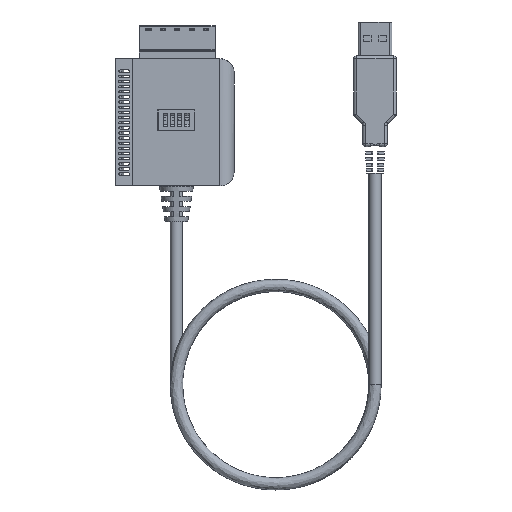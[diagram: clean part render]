
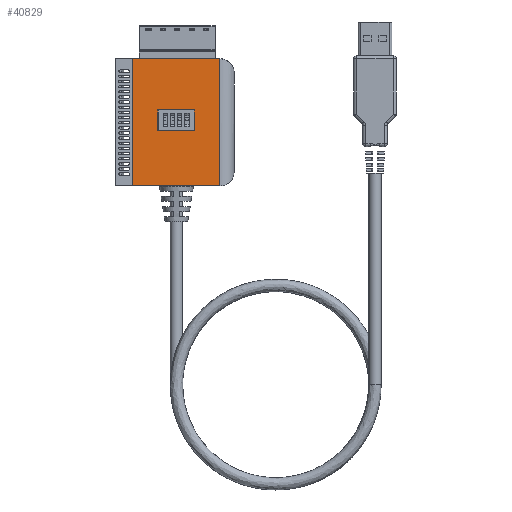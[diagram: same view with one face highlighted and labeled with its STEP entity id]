
A CAD part, front view. The second image highlights one B-rep face of the part: STEP entity #40829.
In plain terms, the highlighted planar face has unit normal (0, -1, 0).
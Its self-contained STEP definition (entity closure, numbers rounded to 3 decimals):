
#1608=FACE_BOUND('',#5401,.T.);
#3167=FACE_OUTER_BOUND('',#5400,.T.);
#5400=EDGE_LOOP('',(#27737,#27738,#27739,#27740));
#5401=EDGE_LOOP('',(#27741,#27742,#27743,#27744));
#7748=LINE('',#56272,#12259);
#7751=LINE('',#56278,#12262);
#7754=LINE('',#56284,#12265);
#7757=LINE('',#56288,#12268);
#7784=LINE('',#56343,#12295);
#8051=LINE('',#57117,#12562);
#8052=LINE('',#57119,#12563);
#8053=LINE('',#57120,#12564);
#12259=VECTOR('',#46002,10.);
#12262=VECTOR('',#46007,10.);
#12265=VECTOR('',#46012,10.);
#12268=VECTOR('',#46017,10.);
#12295=VECTOR('',#46064,10.);
#12562=VECTOR('',#46821,10.);
#12563=VECTOR('',#46822,10.);
#12564=VECTOR('',#46823,10.);
#16768=VERTEX_POINT('',#56269);
#16769=VERTEX_POINT('',#56271);
#16771=VERTEX_POINT('',#56277);
#16773=VERTEX_POINT('',#56283);
#16790=VERTEX_POINT('',#56340);
#16791=VERTEX_POINT('',#56342);
#17053=VERTEX_POINT('',#57116);
#17054=VERTEX_POINT('',#57118);
#20783=EDGE_CURVE('',#16769,#16768,#7748,.T.);
#20786=EDGE_CURVE('',#16771,#16769,#7751,.T.);
#20789=EDGE_CURVE('',#16773,#16771,#7754,.T.);
#20792=EDGE_CURVE('',#16768,#16773,#7757,.T.);
#20820=EDGE_CURVE('',#16790,#16791,#7784,.T.);
#21217=EDGE_CURVE('',#17053,#16791,#8051,.T.);
#21218=EDGE_CURVE('',#17054,#16790,#8052,.T.);
#21219=EDGE_CURVE('',#17053,#17054,#8053,.T.);
#27737=ORIENTED_EDGE('',*,*,#21217,.T.);
#27738=ORIENTED_EDGE('',*,*,#20820,.F.);
#27739=ORIENTED_EDGE('',*,*,#21218,.F.);
#27740=ORIENTED_EDGE('',*,*,#21219,.F.);
#27741=ORIENTED_EDGE('',*,*,#20789,.T.);
#27742=ORIENTED_EDGE('',*,*,#20786,.T.);
#27743=ORIENTED_EDGE('',*,*,#20783,.T.);
#27744=ORIENTED_EDGE('',*,*,#20792,.T.);
#39241=PLANE('',#43321);
#40829=ADVANCED_FACE('',(#3167,#1608),#39241,.T.);
#43321=AXIS2_PLACEMENT_3D('',#57115,#46819,#46820);
#46002=DIRECTION('',(-1.,0.,0.));
#46007=DIRECTION('',(0.,0.,-1.));
#46012=DIRECTION('',(1.,0.,0.));
#46017=DIRECTION('',(0.,0.,1.));
#46064=DIRECTION('',(-1.,0.,0.));
#46819=DIRECTION('center_axis',(0.,-1.,0.));
#46820=DIRECTION('ref_axis',(1.,0.,0.));
#46821=DIRECTION('',(0.,0.,-1.));
#46822=DIRECTION('',(0.,0.,-1.));
#46823=DIRECTION('',(1.,0.,0.));
#56269=CARTESIAN_POINT('',(-6.025,-11.,-2.845));
#56271=CARTESIAN_POINT('',(6.875,-11.,-2.845));
#56272=CARTESIAN_POINT('',(-7.,-11.,-2.845));
#56277=CARTESIAN_POINT('',(6.875,-11.,4.355));
#56278=CARTESIAN_POINT('',(6.875,-11.,2.178));
#56283=CARTESIAN_POINT('',(-6.025,-11.,4.355));
#56284=CARTESIAN_POINT('',(-13.45,-11.,4.355));
#56288=CARTESIAN_POINT('',(-6.025,-11.,-1.423));
#56340=CARTESIAN_POINT('',(15.875,-11.,-22.425));
#56342=CARTESIAN_POINT('',(-14.875,-11.,-22.425));
#56343=CARTESIAN_POINT('',(-20.875,-11.,-22.425));
#57115=CARTESIAN_POINT('Origin',(-20.875,-11.,0.));
#57116=CARTESIAN_POINT('',(-14.875,-11.,22.425));
#57117=CARTESIAN_POINT('',(-14.875,-11.,0.));
#57118=CARTESIAN_POINT('',(15.875,-11.,22.425));
#57119=CARTESIAN_POINT('',(15.875,-11.,0.));
#57120=CARTESIAN_POINT('',(-20.875,-11.,22.425));
